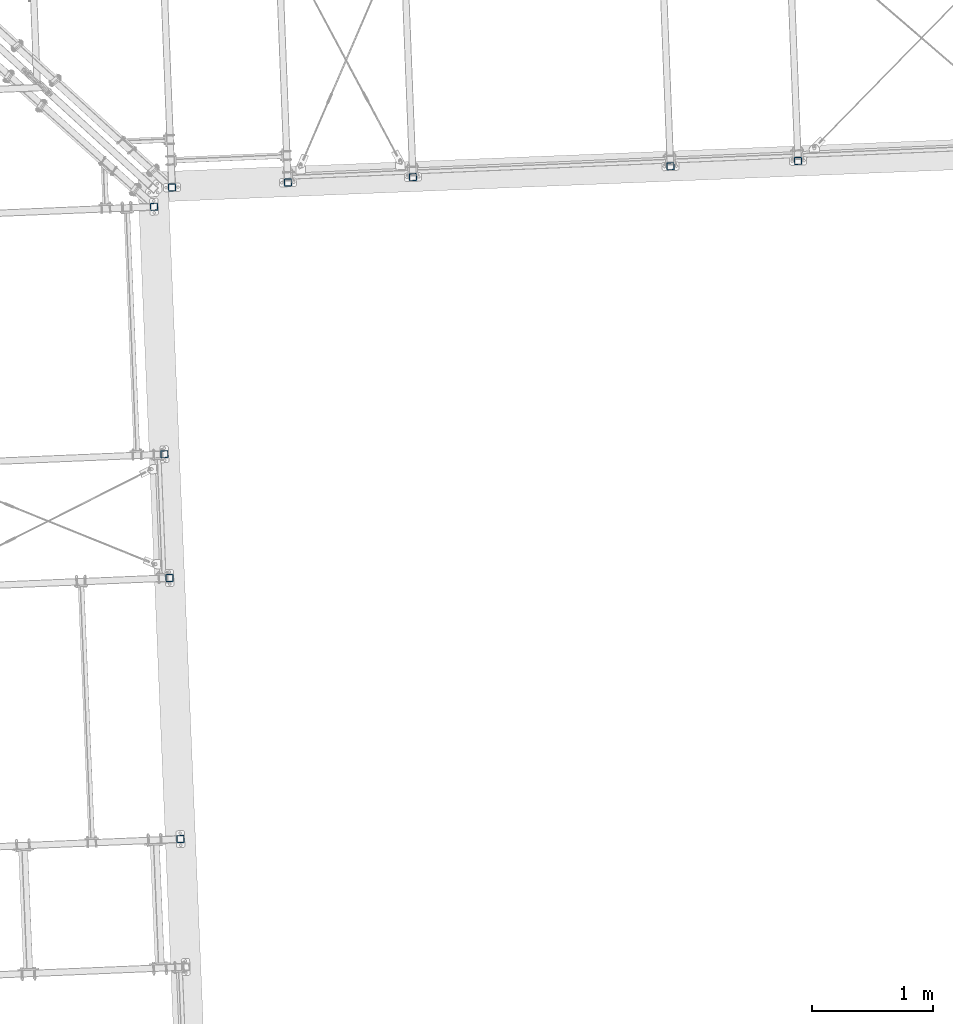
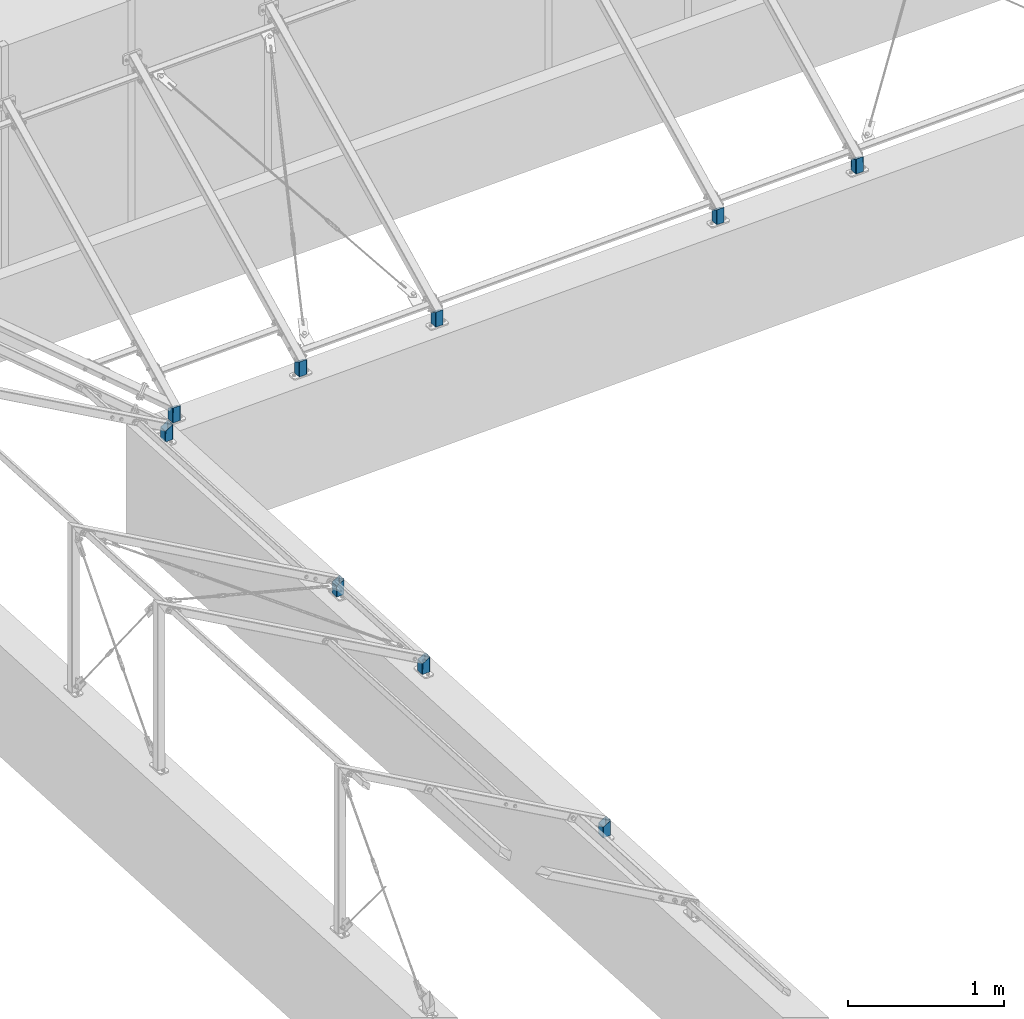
# One storey, part 8 of 288: 9 columns.
"""IFC2X3 building model written with IfcOpenShell, lengths in millimetres."""

from ifc_helpers import new_model, entity, si_unit, converted_unit, frame, origin, origin_with_axes, origin_2d, place, context, project, spatial, hollow_rectangle, extrude, clip, halfspace, material, element, save


model = new_model("IFC2X3")

# Units and contexts
model_context = context("Model", 3, precision=1e-09, world=origin_with_axes())
ifc_project = project(units=[si_unit("LENGTHUNIT", "METRE", prefix="MILLI"), si_unit("AREAUNIT", "SQUARE_METRE"), si_unit("VOLUMEUNIT", "CUBIC_METRE"), converted_unit("PLANEANGLEUNIT", "DEGREE", entity("IfcPlaneAngleMeasure", 0.01745329), si_unit("PLANEANGLEUNIT", "RADIAN"), dimensions=[0, 0, 0, 0, 0, 0, 0])], contexts=[model_context])

# Site, building, storey
site_placement = place(None, origin_with_axes())
site = spatial("IfcSite", under=ifc_project, at=site_placement, Name="Remont ?wietlik?w nad MC w NCPP w Opolu", CompositionType="ELEMENT")
building_placement = place(site_placement, origin_with_axes())
building = spatial("IfcBuilding", under=site, at=building_placement, Name="Konstrukcja 1", CompositionType="ELEMENT")
storey_placement = place(building_placement, origin_with_axes())
storey = spatial("IfcBuildingStorey", under=building, at=storey_placement, Name="Default Storey", CompositionType="ELEMENT", Elevation=0.0)

# Columns
ifc_material = material(Name="S235")
column_1_placement = place(None, frame((1475.626739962, 13580.625484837, -42.425547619), z_axis=(0.0, 0.0, 1.0), x_axis=(0.039392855, -0.9992238, 0.0)))
element("IfcColumn", 1, at=column_1_placement, inside=storey, material=ifc_material, Name="Horizontal_Beam", ObjectType="Horizontal_Beam", context=model_context, shape_type="Clipping", body=[
    clip(clip(extrude(hollow_rectangle(XDim=60.0, YDim=60.0, WallThickness=3.0, InnerFilletRadius=3.0, OuterFilletRadius=6.0, at=origin_2d()), origin(), (0.0, 0.0, 1.0), 201.01466846), halfspace(frame((13511.955057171, -2009.460964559, 52.427406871), z_axis=(0.0, 0.0, 1.0), x_axis=(0.039392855, 0.9992238, 0.0)), True)), halfspace(frame((10115.323044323, -2009.461786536, 5959.087909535), z_axis=(0.497870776, 1.2e-07, -0.867251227), x_axis=(-2.42e-07, 1.0, 0.0)), True)),
])
column_2_placement = place(None, frame((2435.02541692, 13621.303807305, -42.426406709), z_axis=(0.0, 0.0, 1.0), x_axis=(0.039392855, -0.9992238, 0.0)))
element("IfcColumn", 2, at=column_2_placement, inside=storey, material=ifc_material, Name="Horizontal_Beam", ObjectType="Horizontal_Beam", context=model_context, shape_type="Clipping", body=[
    clip(clip(extrude(hollow_rectangle(XDim=60.0, YDim=60.0, WallThickness=3.0, InnerFilletRadius=3.0, OuterFilletRadius=6.0, at=origin_2d()), origin(), (0.0, 0.0, 1.0), 201.016908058), halfspace(frame((13514.808352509, -2969.717391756, 52.427406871), z_axis=(0.0, 0.0, 1.0), x_axis=(0.039392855, 0.9992238, 0.0)), True)), halfspace(frame((10116.534464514, -2969.71821413, 5960.855780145), z_axis=(0.497939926, 1.21e-07, -0.867211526), x_axis=(-2.42e-07, 1.0, 0.0)), True)),
])
column_3_placement = place(None, frame((3470.88365173, 13665.224000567, -42.426406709), z_axis=(0.0, 0.0, 1.0), x_axis=(0.039392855, -0.9992238, 0.0)))
element("IfcColumn", 3, at=column_3_placement, inside=storey, material=ifc_material, Name="Horizontal_Beam", ObjectType="Horizontal_Beam", context=model_context, shape_type="Clipping", body=[
    clip(clip(extrude(hollow_rectangle(XDim=60.0, YDim=60.0, WallThickness=3.0, InnerFilletRadius=3.0, OuterFilletRadius=6.0, at=origin_2d()), origin(), (0.0, 0.0, 1.0), 201.014199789), halfspace(frame((13517.889042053, -4006.501735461, 52.427406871), z_axis=(0.0, 0.0, 1.0), x_axis=(0.039392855, 0.9992238, 0.0)), True)), halfspace(frame((10119.982364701, -4006.50255779, 5961.537906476), z_axis=(0.497856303, 1.2e-07, -0.867259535), x_axis=(-2.42e-07, 1.0, 0.0)), True)),
])
column_4_placement = place(None, frame((5603.91603092, 13755.66417006, -42.426406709), z_axis=(0.0, 0.0, 1.0), x_axis=(0.039392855, -0.9992238, 0.0)))
element("IfcColumn", 4, at=column_4_placement, inside=storey, material=ifc_material, Name="Horizontal_Beam", ObjectType="Horizontal_Beam", context=model_context, shape_type="Clipping", body=[
    clip(clip(extrude(hollow_rectangle(XDim=60.0, YDim=60.0, WallThickness=3.0, InnerFilletRadius=3.0, OuterFilletRadius=6.0, at=origin_2d()), origin(), (0.0, 0.0, 1.0), 201.019191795), halfspace(frame((13524.232777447, -6141.44115192, 52.427406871), z_axis=(0.0, 0.0, 1.0), x_axis=(0.039392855, 0.9992238, 0.0)), True)), halfspace(frame((10122.668350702, -6141.441975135, 5965.471526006), z_axis=(0.498010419, 1.21e-07, -0.867171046), x_axis=(-2.42e-07, 1.0, 0.0)), True)),
])
column_5_placement = place(None, frame((6660.554969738, 13800.465461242, -42.426406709), z_axis=(0.0, 0.0, 1.0), x_axis=(0.039392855, -0.9992238, 0.0)))
element("IfcColumn", 5, at=column_5_placement, inside=storey, material=ifc_material, Name="Horizontal_Beam", ObjectType="Horizontal_Beam", context=model_context, shape_type="Clipping", body=[
    clip(clip(extrude(hollow_rectangle(XDim=60.0, YDim=60.0, WallThickness=3.0, InnerFilletRadius=3.0, OuterFilletRadius=6.0, at=origin_2d()), origin(), (0.0, 0.0, 1.0), 201.02166638), halfspace(frame((13527.375269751, -7199.024778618, 52.427406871), z_axis=(0.0, 0.0, 1.0), x_axis=(0.039392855, 0.9992238, 0.0)), True)), halfspace(frame((10123.997714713, -7199.025602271, 5967.420446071), z_axis=(0.498086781, 1.21e-07, -0.867127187), x_axis=(-2.42e-07, 1.0, 0.0)), True)),
])
column_6_placement = place(None, frame((1454.900519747, 10345.576080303, -42.426406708), z_axis=(0.0, 0.0, 1.0), x_axis=(0.999131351, 0.041671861, 0.0)))
element("IfcColumn", 6, at=column_6_placement, inside=storey, material=ifc_material, Name="Horizontal_Beam", ObjectType="Horizontal_Beam", context=model_context, shape_type="Clipping", body=[
    clip(clip(extrude(hollow_rectangle(XDim=60.0, YDim=60.0, WallThickness=3.0, InnerFilletRadius=3.0, OuterFilletRadius=6.0, at=origin_2d()), origin(), (0.0, 0.0, 1.0), 201.083915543), halfspace(frame((-1461.053373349, -10275.960888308, -691.448172), z_axis=(0.500000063, 1.21e-07, -0.866025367), x_axis=(-2.42e-07, 1.0, 0.0)), True)), halfspace(frame((-1884.756130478, -10275.960990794, 52.427406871), z_axis=(0.0, 0.0, 1.0), x_axis=(0.999131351, -0.041671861, 0.0)), True)),
])
column_7_placement = place(None, frame((1412.152057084, 11370.52020696, -42.426406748), z_axis=(0.0, 0.0, 1.0), x_axis=(0.999131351, 0.041671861, 0.0)))
element("IfcColumn", 7, at=column_7_placement, inside=storey, material=ifc_material, Name="Horizontal_Beam", ObjectType="Horizontal_Beam", context=model_context, shape_type="Clipping", body=[
    clip(clip(extrude(hollow_rectangle(XDim=60.0, YDim=60.0, WallThickness=3.0, InnerFilletRadius=3.0, OuterFilletRadius=6.0, at=origin_2d()), origin(), (0.0, 0.0, 1.0), 201.083918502), halfspace(frame((-1461.053825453, -11301.79620775, -691.447212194), z_axis=(0.500000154, 0.0, -0.866025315), x_axis=(0.0, 1.0, 0.0)), True)), halfspace(frame((-1884.756130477, -11301.796208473, 52.427406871), z_axis=(0.0, 0.0, 1.0), x_axis=(0.999131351, -0.041671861, 0.0)), True)),
])
column_8_placement = place(None, frame((1326.655131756, 13420.408460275, -42.426406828), z_axis=(0.0, 0.0, 1.0), x_axis=(0.999131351, 0.041671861, 0.0)))
element("IfcColumn", 8, at=column_8_placement, inside=storey, material=ifc_material, Name="Horizontal_Beam", ObjectType="Horizontal_Beam", context=model_context, shape_type="Clipping", body=[
    clip(clip(extrude(hollow_rectangle(XDim=60.0, YDim=60.0, WallThickness=3.0, InnerFilletRadius=3.0, OuterFilletRadius=6.0, at=origin_2d()), origin(), (0.0, 0.0, 1.0), 201.083915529), halfspace(frame((-1461.05318235, -13353.466540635, -691.448503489), z_axis=(0.500000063, 1.22e-07, -0.866025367), x_axis=(-2.44e-07, 1.0, 0.0)), True)), halfspace(frame((-1884.756130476, -13353.46664383, 52.427406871), z_axis=(0.0, 0.0, 1.0), x_axis=(0.999131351, -0.041671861, 0.0)), True)),
])
column_9_placement = place(None, frame((1545.09457611, 8183.068645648, -42.426406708), z_axis=(0.0, 0.0, -1.0), x_axis=(0.999131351, 0.041671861, 0.0)))
element("IfcColumn", 9, at=column_9_placement, inside=storey, material=ifc_material, Name="Horizontal_Beam", ObjectType="Horizontal_Beam", context=model_context, shape_type="Clipping", body=[
    clip(clip(extrude(hollow_rectangle(XDim=60.0, YDim=60.0, WallThickness=3.0, InnerFilletRadius=3.0, OuterFilletRadius=6.0, at=origin_2d()), origin(), (0.0, 0.0, -1.0), 201.083915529), halfspace(frame((-1461.054489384, 8111.57356567, 691.446239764), z_axis=(0.500000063, 1.22e-07, 0.866025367), x_axis=(2.44e-07, -1.0, 0.0)), True)), halfspace(frame((-1884.756130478, 8111.573462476, -52.427406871), z_axis=(0.0, 0.0, -1.0), x_axis=(0.999131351, 0.041671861, 0.0)), True)),
])

save(model, "model.ifc")
